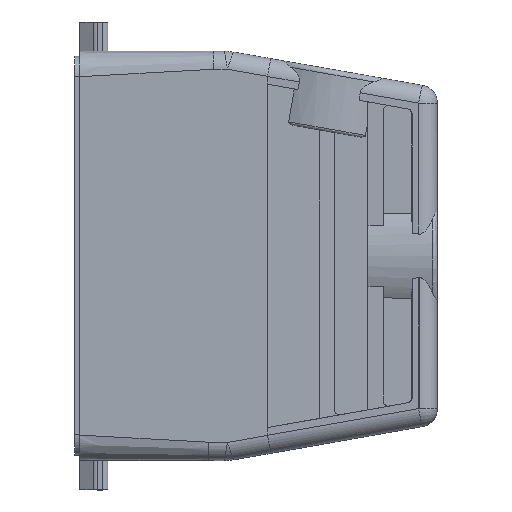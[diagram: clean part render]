
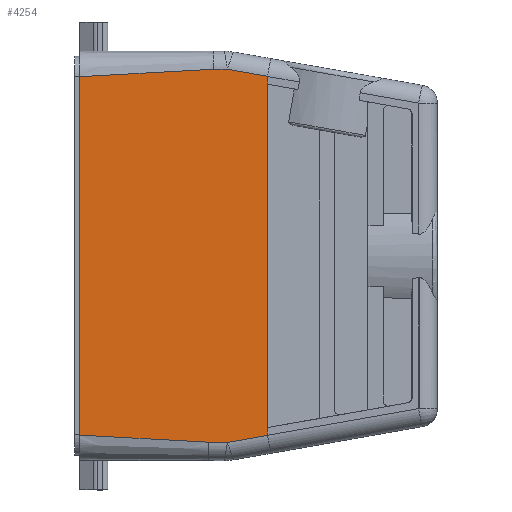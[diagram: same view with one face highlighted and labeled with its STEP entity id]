
A CAD part, top view. The second image highlights one B-rep face of the part: STEP entity #4254.
In plain terms, the highlighted planar face has unit normal (0, 0, -1).
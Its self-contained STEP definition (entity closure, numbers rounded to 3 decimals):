
#142=CARTESIAN_POINT('',(37.502,-34.873,14.75));
#143=CARTESIAN_POINT('',(37.502,-34.87,14.75));
#144=CARTESIAN_POINT('',(37.501,-34.865,14.75));
#145=CARTESIAN_POINT('',(37.501,-34.857,14.75));
#146=CARTESIAN_POINT('',(37.5,-34.851,14.75));
#147=CARTESIAN_POINT('',(37.5,-34.848,14.75));
#183=DIRECTION('',(-0.998,0.055,0.));
#184=VECTOR('',#183,25.039);
#185=CARTESIAN_POINT('',(26.,-36.194,14.75));
#186=LINE('',#185,#184);
#187=DIRECTION('',(-0.985,-0.174,0.));
#188=VECTOR('',#187,7.928);
#189=CARTESIAN_POINT('',(37.502,-34.873,14.75));
#190=LINE('',#189,#188);
#191=DIRECTION('',(0.,-1.,0.));
#192=VECTOR('',#191,1.498);
#193=CARTESIAN_POINT('',(37.5,-33.35,14.75));
#194=LINE('',#193,#192);
#195=DIRECTION('',(0.,-1.,0.));
#196=VECTOR('',#195,1.498);
#197=CARTESIAN_POINT('',(37.5,34.848,14.75));
#198=LINE('',#197,#196);
#199=DIRECTION('',(0.985,-0.174,0.));
#200=VECTOR('',#199,7.928);
#201=CARTESIAN_POINT('',(29.694,36.25,14.75));
#202=LINE('',#201,#200);
#203=DIRECTION('',(0.998,0.055,0.));
#204=VECTOR('',#203,1.002);
#205=CARTESIAN_POINT('',(26.,36.194,14.75));
#206=LINE('',#205,#204);
#207=DIRECTION('',(0.998,0.055,0.));
#208=VECTOR('',#207,25.039);
#209=CARTESIAN_POINT('',(1.,34.806,14.75));
#210=LINE('',#209,#208);
#211=DIRECTION('',(0.,1.,0.));
#212=VECTOR('',#211,69.611);
#213=CARTESIAN_POINT('',(1.,-34.806,14.75));
#214=LINE('',#213,#212);
#215=CARTESIAN_POINT('',(26.,-36.194,14.75));
#216=CARTESIAN_POINT('',(26.,-36.201,14.75));
#217=CARTESIAN_POINT('',(26.,-36.213,14.75));
#218=CARTESIAN_POINT('',(26.,-36.231,14.75));
#219=CARTESIAN_POINT('',(26.,-36.244,14.75));
#220=CARTESIAN_POINT('',(26.,-36.25,14.75));
#306=DIRECTION('',(-1.,0.,0.));
#307=VECTOR('',#306,2.694);
#308=CARTESIAN_POINT('',(29.694,36.25,14.75));
#309=LINE('',#308,#307);
#319=CARTESIAN_POINT('',(29.694,36.25,14.75));
#1152=CARTESIAN_POINT('',(37.5,34.848,14.75));
#1153=CARTESIAN_POINT('',(37.5,34.851,14.75));
#1154=CARTESIAN_POINT('',(37.501,34.857,14.75));
#1155=CARTESIAN_POINT('',(37.501,34.865,14.75));
#1156=CARTESIAN_POINT('',(37.502,34.87,14.75));
#1157=CARTESIAN_POINT('',(37.502,34.873,14.75));
#1192=DIRECTION('',(0.,1.,0.));
#1193=VECTOR('',#1192,66.701);
#1194=CARTESIAN_POINT('',(37.5,-33.35,14.75));
#1195=LINE('',#1194,#1193);
#2916=CARTESIAN_POINT('',(29.694,-36.25,14.75));
#2927=DIRECTION('',(1.,0.,0.));
#2928=VECTOR('',#2927,3.694);
#2929=CARTESIAN_POINT('',(26.,-36.25,14.75));
#2930=LINE('',#2929,#2928);
#3282=CARTESIAN_POINT('',(1.,34.806,14.75));
#3283=CARTESIAN_POINT('',(26.,36.194,14.75));
#3284=VERTEX_POINT('',#3282);
#3285=VERTEX_POINT('',#3283);
#3287=VERTEX_POINT('',#319);
#3297=VERTEX_POINT('',#2916);
#3313=CARTESIAN_POINT('',(1.,-34.806,14.75));
#3314=VERTEX_POINT('',#3313);
#3516=CARTESIAN_POINT('',(37.5,34.848,14.75));
#3518=VERTEX_POINT('',#3516);
#3649=CARTESIAN_POINT('',(37.5,33.35,14.75));
#3650=VERTEX_POINT('',#3649);
#3756=VERTEX_POINT('',#1157);
#3761=CARTESIAN_POINT('',(37.5,-33.35,14.75));
#3762=VERTEX_POINT('',#3761);
#3821=CARTESIAN_POINT('',(27.,36.25,14.75));
#3822=VERTEX_POINT('',#3821);
#3833=CARTESIAN_POINT('',(26.,-36.194,14.75));
#3834=VERTEX_POINT('',#3833);
#3849=CARTESIAN_POINT('',(37.5,-34.848,14.75));
#3850=VERTEX_POINT('',#3849);
#3888=CARTESIAN_POINT('',(26.,-36.25,14.75));
#3889=VERTEX_POINT('',#3888);
#3986=VERTEX_POINT('',#142);
#4221=CARTESIAN_POINT('',(0.,-39.75,14.75));
#4222=DIRECTION('',(0.,0.,-1.));
#4223=DIRECTION('',(-1.,0.,0.));
#4224=AXIS2_PLACEMENT_3D('',#4221,#4222,#4223);
#4225=PLANE('',#4224);
#4227=ORIENTED_EDGE('',*,*,#4226,.F.);
#4229=ORIENTED_EDGE('',*,*,#4228,.T.);
#4231=ORIENTED_EDGE('',*,*,#4230,.T.);
#4232=ORIENTED_EDGE('',*,*,#4212,.F.);
#4233=ORIENTED_EDGE('',*,*,#4181,.T.);
#4235=ORIENTED_EDGE('',*,*,#4234,.F.);
#4237=ORIENTED_EDGE('',*,*,#4236,.T.);
#4239=ORIENTED_EDGE('',*,*,#4238,.F.);
#4241=ORIENTED_EDGE('',*,*,#4240,.T.);
#4243=ORIENTED_EDGE('',*,*,#4242,.F.);
#4245=ORIENTED_EDGE('',*,*,#4244,.T.);
#4247=ORIENTED_EDGE('',*,*,#4246,.F.);
#4249=ORIENTED_EDGE('',*,*,#4248,.F.);
#4251=ORIENTED_EDGE('',*,*,#4250,.F.);
#4252=EDGE_LOOP('',(#4227,#4229,#4231,#4232,#4233,#4235,#4237,#4239,#4241,#4243,
#4245,#4247,#4249,#4251));
#4253=FACE_OUTER_BOUND('',#4252,.F.);
#4254=ADVANCED_FACE('',(#4253),#4225,.T.);
#148=B_SPLINE_CURVE_WITH_KNOTS('',3,(#142,#143,#144,#145,#146,#147),
.UNSPECIFIED.,.F.,.F.,(4,1,1,4),(0.,0.333,0.667,1.),
.UNSPECIFIED.);
#221=B_SPLINE_CURVE_WITH_KNOTS('',3,(#215,#216,#217,#218,#219,#220),
.UNSPECIFIED.,.F.,.F.,(4,1,1,4),(0.,0.333,0.667,1.),
.UNSPECIFIED.);
#1158=B_SPLINE_CURVE_WITH_KNOTS('',3,(#1152,#1153,#1154,#1155,#1156,#1157),
.UNSPECIFIED.,.F.,.F.,(4,1,1,4),(0.,0.333,0.667,1.),
.UNSPECIFIED.);
#4181=EDGE_CURVE('',#3986,#3850,#148,.T.);
#4212=EDGE_CURVE('',#3986,#3297,#190,.T.);
#4226=EDGE_CURVE('',#3834,#3314,#186,.T.);
#4228=EDGE_CURVE('',#3834,#3889,#221,.T.);
#4230=EDGE_CURVE('',#3889,#3297,#2930,.T.);
#4234=EDGE_CURVE('',#3762,#3850,#194,.T.);
#4236=EDGE_CURVE('',#3762,#3650,#1195,.T.);
#4238=EDGE_CURVE('',#3518,#3650,#198,.T.);
#4240=EDGE_CURVE('',#3518,#3756,#1158,.T.);
#4242=EDGE_CURVE('',#3287,#3756,#202,.T.);
#4244=EDGE_CURVE('',#3287,#3822,#309,.T.);
#4246=EDGE_CURVE('',#3285,#3822,#206,.T.);
#4248=EDGE_CURVE('',#3284,#3285,#210,.T.);
#4250=EDGE_CURVE('',#3314,#3284,#214,.T.);
